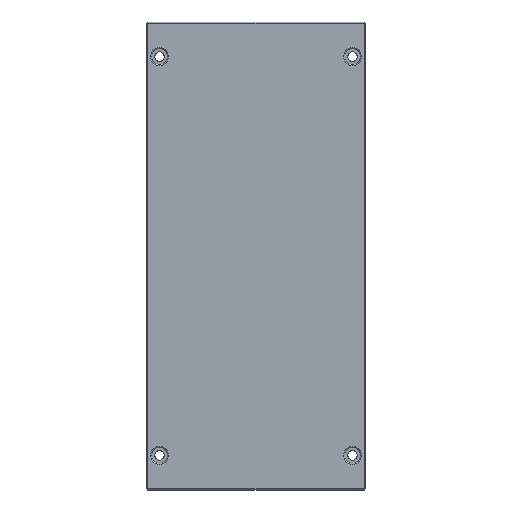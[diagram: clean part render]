
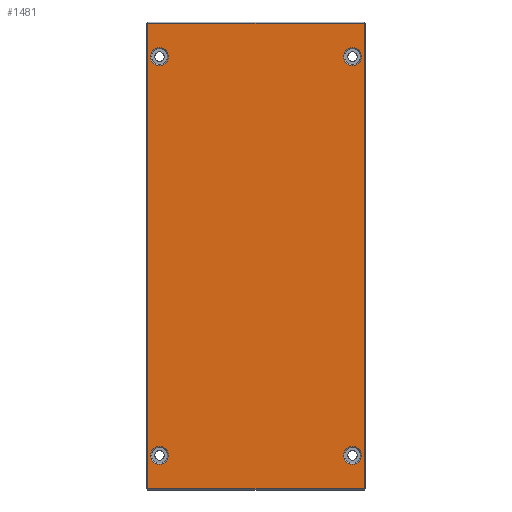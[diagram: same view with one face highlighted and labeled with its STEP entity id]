
A CAD part, front view. The second image highlights one B-rep face of the part: STEP entity #1481.
In plain terms, the highlighted planar face has unit normal (0, -1, 0).
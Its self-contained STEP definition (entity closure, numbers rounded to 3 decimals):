
#13 = VERTEX_POINT ( 'NONE', #2269 ) ;
#51 = DIRECTION ( 'NONE',  ( 0., 1., 0. ) ) ;
#58 = ORIENTED_EDGE ( 'NONE', *, *, #2119, .T. ) ;
#66 = DIRECTION ( 'NONE',  ( 0., 0., 1. ) ) ;
#84 = CARTESIAN_POINT ( 'NONE',  ( 92., 0., -190. ) ) ;
#95 = CARTESIAN_POINT ( 'NONE',  ( 103., 0., 222. ) ) ;
#99 = DIRECTION ( 'NONE',  ( 0., 0., 1. ) ) ;
#107 = AXIS2_PLACEMENT_3D ( 'NONE', #235, #262, #290 ) ;
#150 = DIRECTION ( 'NONE',  ( 0., 0., -1. ) ) ;
#155 = CIRCLE ( 'NONE', #1775, 8.5 ) ;
#157 = AXIS2_PLACEMENT_3D ( 'NONE', #1029, #866, #1047 ) ;
#180 = EDGE_CURVE ( 'NONE', #2391, #1458, #1572, .T. ) ;
#184 = ORIENTED_EDGE ( 'NONE', *, *, #540, .T. ) ;
#203 = DIRECTION ( 'NONE',  ( 0., 1., 0. ) ) ;
#235 = CARTESIAN_POINT ( 'NONE',  ( 92., 0., -190. ) ) ;
#237 = LINE ( 'NONE', #728, #2303 ) ;
#238 = EDGE_CURVE ( 'NONE', #1586, #1188, #986, .T. ) ;
#241 = ORIENTED_EDGE ( 'NONE', *, *, #1334, .T. ) ;
#262 = DIRECTION ( 'NONE',  ( 0., 1., 0. ) ) ;
#269 = CARTESIAN_POINT ( 'NONE',  ( -92., 0., -190. ) ) ;
#290 = DIRECTION ( 'NONE',  ( 0., 0., 1. ) ) ;
#316 = EDGE_CURVE ( 'NONE', #1109, #2306, #1847, .T. ) ;
#343 = CARTESIAN_POINT ( 'NONE',  ( 0., 0., 222. ) ) ;
#384 = AXIS2_PLACEMENT_3D ( 'NONE', #1760, #590, #1967 ) ;
#453 = DIRECTION ( 'NONE',  ( -1., 0., 0. ) ) ;
#520 = DIRECTION ( 'NONE',  ( 0., 1., 0. ) ) ;
#532 = VECTOR ( 'NONE', #150, 1000. ) ;
#540 = EDGE_CURVE ( 'NONE', #1399, #628, #1756, .T. ) ;
#563 = EDGE_LOOP ( 'NONE', ( #58, #2121 ) ) ;
#590 = DIRECTION ( 'NONE',  ( 0., 1., 0. ) ) ;
#628 = VERTEX_POINT ( 'NONE', #1414 ) ;
#638 = EDGE_LOOP ( 'NONE', ( #835, #2363, #1308, #781 ) ) ;
#650 = ORIENTED_EDGE ( 'NONE', *, *, #711, .T. ) ;
#651 = CARTESIAN_POINT ( 'NONE',  ( -103., 0., 222. ) ) ;
#668 = VERTEX_POINT ( 'NONE', #1600 ) ;
#685 = AXIS2_PLACEMENT_3D ( 'NONE', #1696, #520, #1901 ) ;
#711 = EDGE_CURVE ( 'NONE', #628, #1399, #2136, .T. ) ;
#728 = CARTESIAN_POINT ( 'NONE',  ( 0., 0., -222. ) ) ;
#731 = CARTESIAN_POINT ( 'NONE',  ( 92., 0., -198.5 ) ) ;
#734 = AXIS2_PLACEMENT_3D ( 'NONE', #84, #203, #99 ) ;
#781 = ORIENTED_EDGE ( 'NONE', *, *, #2019, .T. ) ;
#825 = FACE_BOUND ( 'NONE', #563, .T. ) ;
#835 = ORIENTED_EDGE ( 'NONE', *, *, #1944, .T. ) ;
#866 = DIRECTION ( 'NONE',  ( 0., 1., 0. ) ) ;
#882 = CARTESIAN_POINT ( 'NONE',  ( -92., 0., -198.5 ) ) ;
#886 = DIRECTION ( 'NONE',  ( 0., 1., 0. ) ) ;
#899 = CARTESIAN_POINT ( 'NONE',  ( 103., 0., -222. ) ) ;
#930 = DIRECTION ( 'NONE',  ( 1., 0., 0. ) ) ;
#970 = CIRCLE ( 'NONE', #384, 8.5 ) ;
#986 = CIRCLE ( 'NONE', #157, 8.5 ) ;
#1003 = AXIS2_PLACEMENT_3D ( 'NONE', #2198, #2374, #2393 ) ;
#1029 = CARTESIAN_POINT ( 'NONE',  ( 92., 0., 190. ) ) ;
#1047 = DIRECTION ( 'NONE',  ( 0., 0., 1. ) ) ;
#1109 = VERTEX_POINT ( 'NONE', #95 ) ;
#1128 = ORIENTED_EDGE ( 'NONE', *, *, #1906, .T. ) ;
#1165 = CIRCLE ( 'NONE', #1003, 8.5 ) ;
#1188 = VERTEX_POINT ( 'NONE', #1230 ) ;
#1230 = CARTESIAN_POINT ( 'NONE',  ( 92., 0., 181.5 ) ) ;
#1233 = EDGE_CURVE ( 'NONE', #2306, #13, #2035, .T. ) ;
#1236 = ORIENTED_EDGE ( 'NONE', *, *, #2489, .T. ) ;
#1308 = ORIENTED_EDGE ( 'NONE', *, *, #1233, .T. ) ;
#1310 = EDGE_LOOP ( 'NONE', ( #184, #650 ) ) ;
#1334 = EDGE_CURVE ( 'NONE', #1551, #668, #155, .T. ) ;
#1399 = VERTEX_POINT ( 'NONE', #731 ) ;
#1414 = CARTESIAN_POINT ( 'NONE',  ( 92., 0., -181.5 ) ) ;
#1415 = FACE_BOUND ( 'NONE', #2390, .T. ) ;
#1458 = VERTEX_POINT ( 'NONE', #1543 ) ;
#1472 = AXIS2_PLACEMENT_3D ( 'NONE', #1727, #1499, #1831 ) ;
#1481 = ADVANCED_FACE ( 'NONE', ( #2474, #1883, #2409, #1415, #825 ), #1711, .F. ) ;
#1499 = DIRECTION ( 'NONE',  ( 0., 1., 0. ) ) ;
#1543 = CARTESIAN_POINT ( 'NONE',  ( -92., 0., -181.5 ) ) ;
#1551 = VERTEX_POINT ( 'NONE', #2424 ) ;
#1553 = LINE ( 'NONE', #1899, #1606 ) ;
#1572 = CIRCLE ( 'NONE', #2060, 8.5 ) ;
#1586 = VERTEX_POINT ( 'NONE', #2524 ) ;
#1600 = CARTESIAN_POINT ( 'NONE',  ( -92., 0., 198.5 ) ) ;
#1606 = VECTOR ( 'NONE', #1943, 1000. ) ;
#1696 = CARTESIAN_POINT ( 'NONE',  ( -92., 0., 190. ) ) ;
#1711 = PLANE ( 'NONE',  #1472 ) ;
#1727 = CARTESIAN_POINT ( 'NONE',  ( 0., 0., 0. ) ) ;
#1756 = CIRCLE ( 'NONE', #107, 8.5 ) ;
#1760 = CARTESIAN_POINT ( 'NONE',  ( 92., 0., 190. ) ) ;
#1775 = AXIS2_PLACEMENT_3D ( 'NONE', #1811, #51, #66 ) ;
#1811 = CARTESIAN_POINT ( 'NONE',  ( -92., 0., 190. ) ) ;
#1831 = DIRECTION ( 'NONE',  ( 0., 0., 1. ) ) ;
#1847 = LINE ( 'NONE', #343, #2384 ) ;
#1855 = CIRCLE ( 'NONE', #685, 8.5 ) ;
#1883 = FACE_BOUND ( 'NONE', #2065, .T. ) ;
#1887 = CARTESIAN_POINT ( 'NONE',  ( -103., 0., 0. ) ) ;
#1899 = CARTESIAN_POINT ( 'NONE',  ( 103., 0., 0. ) ) ;
#1901 = DIRECTION ( 'NONE',  ( 0., 0., 1. ) ) ;
#1906 = EDGE_CURVE ( 'NONE', #1458, #2391, #1165, .T. ) ;
#1943 = DIRECTION ( 'NONE',  ( 0., 0., 1. ) ) ;
#1944 = EDGE_CURVE ( 'NONE', #2471, #1109, #1553, .T. ) ;
#1967 = DIRECTION ( 'NONE',  ( 0., 0., 1. ) ) ;
#2019 = EDGE_CURVE ( 'NONE', #13, #2471, #237, .T. ) ;
#2035 = LINE ( 'NONE', #1887, #532 ) ;
#2060 = AXIS2_PLACEMENT_3D ( 'NONE', #269, #886, #2445 ) ;
#2065 = EDGE_LOOP ( 'NONE', ( #241, #1236 ) ) ;
#2119 = EDGE_CURVE ( 'NONE', #1188, #1586, #970, .T. ) ;
#2121 = ORIENTED_EDGE ( 'NONE', *, *, #238, .T. ) ;
#2136 = CIRCLE ( 'NONE', #734, 8.5 ) ;
#2175 = ORIENTED_EDGE ( 'NONE', *, *, #180, .T. ) ;
#2198 = CARTESIAN_POINT ( 'NONE',  ( -92., 0., -190. ) ) ;
#2269 = CARTESIAN_POINT ( 'NONE',  ( -103., 0., -222. ) ) ;
#2303 = VECTOR ( 'NONE', #930, 1000. ) ;
#2306 = VERTEX_POINT ( 'NONE', #651 ) ;
#2363 = ORIENTED_EDGE ( 'NONE', *, *, #316, .T. ) ;
#2374 = DIRECTION ( 'NONE',  ( 0., 1., 0. ) ) ;
#2384 = VECTOR ( 'NONE', #453, 1000. ) ;
#2390 = EDGE_LOOP ( 'NONE', ( #2175, #1128 ) ) ;
#2391 = VERTEX_POINT ( 'NONE', #882 ) ;
#2393 = DIRECTION ( 'NONE',  ( 0., 0., 1. ) ) ;
#2409 = FACE_BOUND ( 'NONE', #1310, .T. ) ;
#2424 = CARTESIAN_POINT ( 'NONE',  ( -92., 0., 181.5 ) ) ;
#2445 = DIRECTION ( 'NONE',  ( 0., 0., 1. ) ) ;
#2471 = VERTEX_POINT ( 'NONE', #899 ) ;
#2474 = FACE_OUTER_BOUND ( 'NONE', #638, .T. ) ;
#2489 = EDGE_CURVE ( 'NONE', #668, #1551, #1855, .T. ) ;
#2524 = CARTESIAN_POINT ( 'NONE',  ( 92., 0., 198.5 ) ) ;
